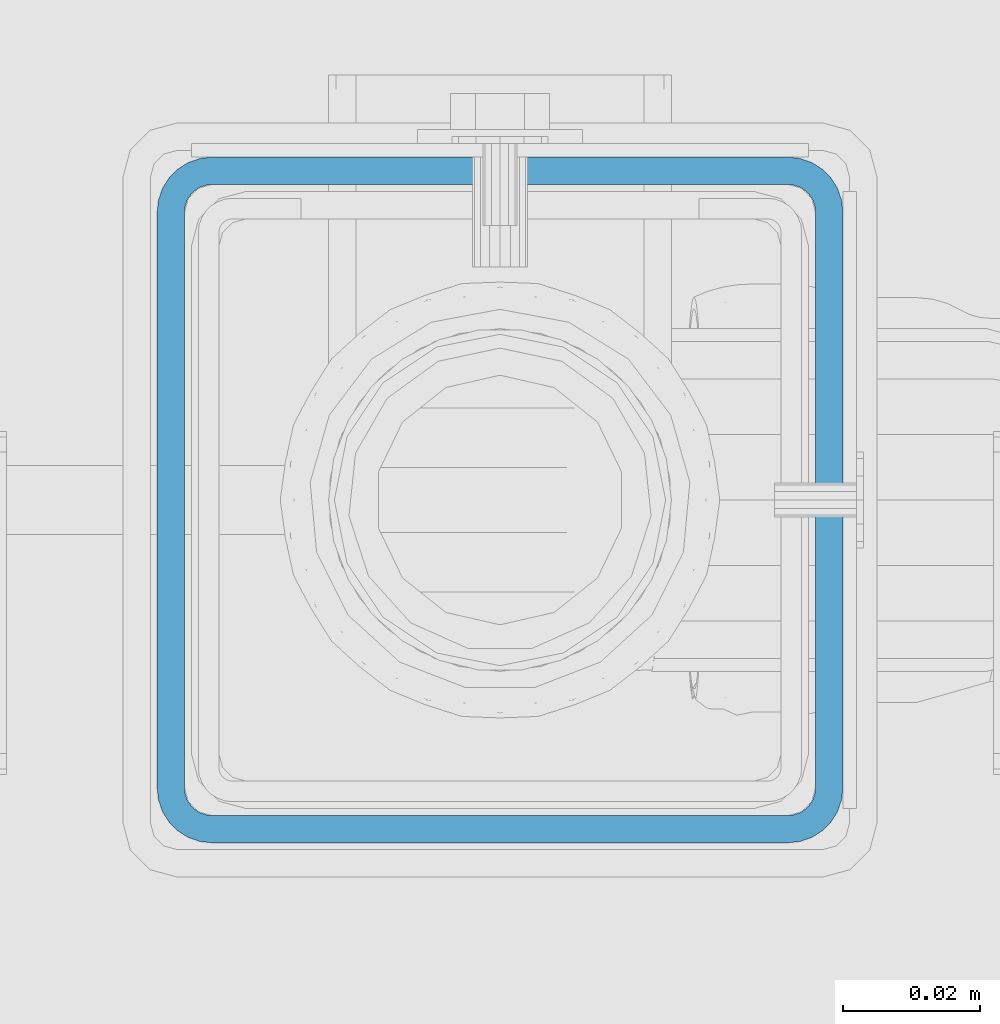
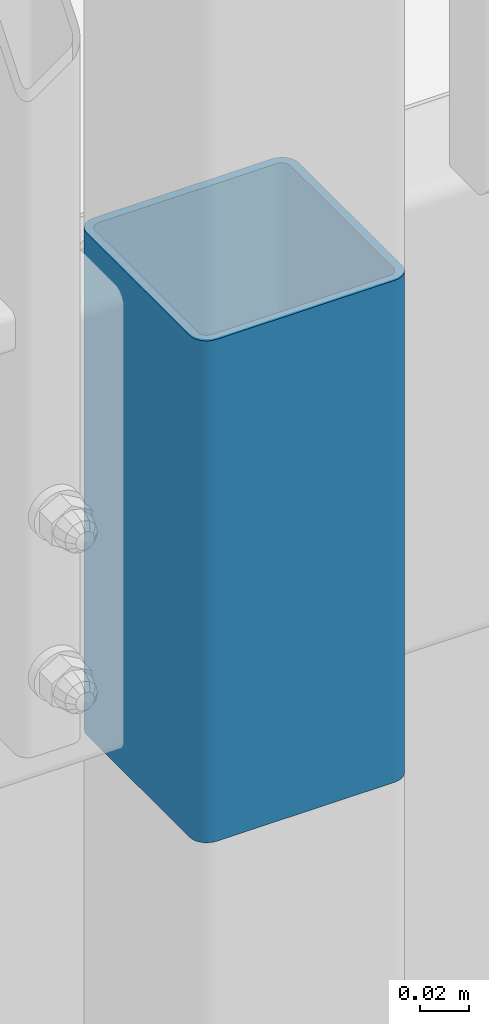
# One storey, part 28 of 162: 1 column, 1 opening.
"""IFC2X3 building model written with IfcOpenShell, lengths in millimetres."""

from ifc_helpers import new_model, entity, si_unit, converted_unit, point, frame, frame_2d, origin, origin_with_axes, origin_2d, place, context, project, spatial, circle_curve, line_curve, trimmed, segment, composite_curve, hollow_rectangle, outline, extrude, material, element, save


model = new_model("IFC2X3")

# Units and contexts
model_context = context("Model", 3, precision=1e-09, world=origin_with_axes())
ifc_project = project(units=[si_unit("LENGTHUNIT", "METRE", prefix="MILLI"), si_unit("AREAUNIT", "SQUARE_METRE"), si_unit("VOLUMEUNIT", "CUBIC_METRE"), converted_unit("PLANEANGLEUNIT", "DEGREE", entity("IfcPlaneAngleMeasure", 0.01745329), si_unit("PLANEANGLEUNIT", "RADIAN"), dimensions=[0, 0, 0, 0, 0, 0, 0])], contexts=[model_context])

# Site, building, storey
site_placement = place(None, origin_with_axes())
site = spatial("IfcSite", under=ifc_project, at=site_placement, Name="Hermannstra?e 1a, 60318 Frankfurt", CompositionType="ELEMENT")
building_placement = place(site_placement, origin_with_axes())
building = spatial("IfcBuilding", under=site, at=building_placement, Name="Struktur 1", CompositionType="ELEMENT")
storey_placement = place(building_placement, origin_with_axes())
storey = spatial("IfcBuildingStorey", under=building, at=storey_placement, Name="Default Storey", CompositionType="ELEMENT", Elevation=0.0)

# Column, opening
ifc_material = material(Name="S235JR")
column_placement = place(None, frame((5473.30936482, 1530.609373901, 3715.0), z_axis=(0.0, 0.0, 1.0), x_axis=(0.0, -1.0, 0.0)))
column = element("IfcColumn", 1, at=column_placement, inside=storey, material=ifc_material, Name="-", ObjectType="-", context=model_context, shape_type="SweptSolid", body=[
    extrude(hollow_rectangle(XDim=100.0, YDim=100.0, WallThickness=4.0, InnerFilletRadius=4.0, OuterFilletRadius=8.0, at=origin_2d()), origin(), (0.0, 0.0, 1.0), 250.0),
])
opening_placement = place(column_placement, frame((20.0, -26.002684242, 15.999), z_axis=(1.0, 0.0, 0.0), x_axis=(0.0, 0.707106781, -0.707106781)))
element("IfcOpeningElement", 2, at=opening_placement, cuts=column, ObjectType="Opening", context=model_context, shape_type="SweptSolid", body=[
    extrude(outline(composite_curve([segment(trimmed(circle_curve(frame_2d((4.242640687, 4.242640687), x_axis=(1.0, 0.0)), 6.0), [point((0.0, 0.0))], [point((8.485281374, 0.0))], True, "CARTESIAN"), True, "CONTINUOUS"), segment(trimmed(line_curve((8.485281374, 0.0), (0.707106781, 0.707106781), 40.002), [point((8.485281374, 0.0))], [point((36.770966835, 28.285685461))], True, "CARTESIAN"), True, "CONTINUOUS"), segment(trimmed(circle_curve(frame_2d((32.528326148, 32.528326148), x_axis=(1.0, 0.0)), 6.0), [point((36.770966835, 28.285685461))], [point((36.770966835, 36.770966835))], True, "CARTESIAN"), True, "CONTINUOUS"), segment(trimmed(line_curve((36.770966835, 36.770966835), (-0.707106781, 0.707106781), 38.002), [point((36.770966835, 36.770966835))], [point((9.899494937, 63.642438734))], True, "CARTESIAN"), True, "CONTINUOUS"), segment(trimmed(circle_curve(frame_2d((5.656854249, 59.399798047), x_axis=(1.0, 0.0)), 6.0), [point((9.899494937, 63.642438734))], [point((1.414213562, 63.642438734))], True, "CARTESIAN"), True, "CONTINUOUS"), segment(trimmed(line_curve((1.414213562, 63.642438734), (-0.707106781, -0.707106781), 40.002), [point((1.414213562, 63.642438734))], [point((-26.871471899, 35.356753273))], True, "CARTESIAN"), True, "CONTINUOUS"), segment(trimmed(circle_curve(frame_2d((-22.628831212, 31.114112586), x_axis=(1.0, 0.0)), 6.0), [point((-26.871471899, 35.356753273))], [point((-26.871471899, 26.871471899))], True, "CARTESIAN"), True, "CONTINUOUS"), segment(trimmed(line_curve((-26.871471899, 26.871471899), (0.707106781, -0.707106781), 38.002), [point((-26.871471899, 26.871471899))], [point((0.0, 0.0))], True, "CARTESIAN"), True, "CONTINUOUS")], self_intersect=False)), origin(), (0.0, 0.0, -1.0), 170.1),
])

save(model, "model.ifc")
